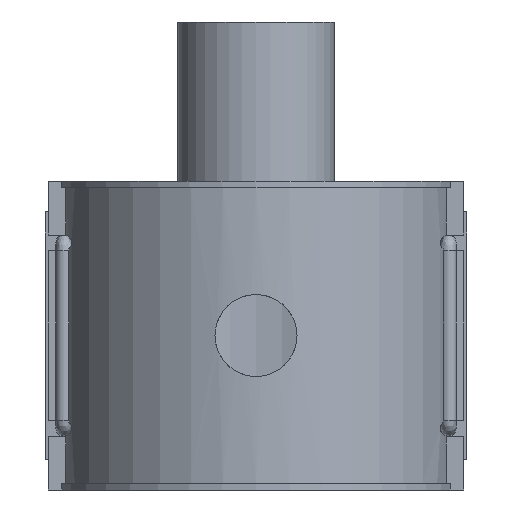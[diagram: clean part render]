
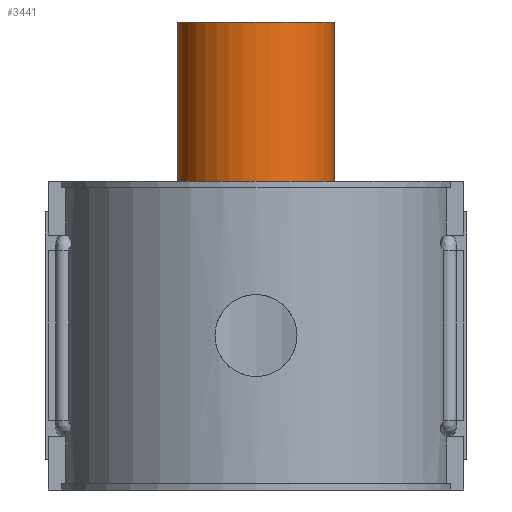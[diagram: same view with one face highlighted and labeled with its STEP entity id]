
A CAD part, front view. The second image highlights one B-rep face of the part: STEP entity #3441.
In plain terms, the highlighted cylindrical face has radius 30.05 mm (diameter 60.1 mm), a full revolution.
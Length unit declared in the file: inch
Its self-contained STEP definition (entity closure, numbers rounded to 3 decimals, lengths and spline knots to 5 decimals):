
#317=CIRCLE('',#3780,1.18307);
#318=CIRCLE('',#3781,1.18307);
#319=CIRCLE('',#3782,1.18307);
#320=CIRCLE('',#3783,1.18307);
#521=FACE_OUTER_BOUND('',#742,.T.);
#742=EDGE_LOOP('',(#3176,#3177,#3178,#3179,#3180,#3181));
#1047=LINE('',#7063,#1348);
#1348=VECTOR('',#4722,1.18307);
#1712=VERTEX_POINT('',#7058);
#1713=VERTEX_POINT('',#7059);
#1714=VERTEX_POINT('',#7062);
#1715=VERTEX_POINT('',#7064);
#2202=EDGE_CURVE('',#1712,#1713,#317,.T.);
#2203=EDGE_CURVE('',#1713,#1712,#318,.T.);
#2204=EDGE_CURVE('',#1713,#1714,#1047,.T.);
#2205=EDGE_CURVE('',#1714,#1715,#319,.T.);
#2206=EDGE_CURVE('',#1715,#1714,#320,.T.);
#3176=ORIENTED_EDGE('',*,*,#2202,.F.);
#3177=ORIENTED_EDGE('',*,*,#2203,.F.);
#3178=ORIENTED_EDGE('',*,*,#2204,.T.);
#3179=ORIENTED_EDGE('',*,*,#2205,.T.);
#3180=ORIENTED_EDGE('',*,*,#2206,.T.);
#3181=ORIENTED_EDGE('',*,*,#2204,.F.);
#3248=CYLINDRICAL_SURFACE('',#3779,1.18307);
#3441=ADVANCED_FACE('',(#521),#3248,.T.);
#3779=AXIS2_PLACEMENT_3D('',#7057,#4716,#4717);
#3780=AXIS2_PLACEMENT_3D('',#7060,#4718,#4719);
#3781=AXIS2_PLACEMENT_3D('',#7061,#4720,#4721);
#3782=AXIS2_PLACEMENT_3D('',#7065,#4723,#4724);
#3783=AXIS2_PLACEMENT_3D('',#7066,#4725,#4726);
#4716=DIRECTION('center_axis',(0.,0.,1.));
#4717=DIRECTION('ref_axis',(0.,-1.,0.));
#4718=DIRECTION('center_axis',(0.,0.,1.));
#4719=DIRECTION('ref_axis',(1.,0.,0.));
#4720=DIRECTION('center_axis',(0.,0.,1.));
#4721=DIRECTION('ref_axis',(1.,0.,0.));
#4722=DIRECTION('',(0.,0.,-1.));
#4723=DIRECTION('center_axis',(0.,0.,1.));
#4724=DIRECTION('ref_axis',(1.,0.,0.));
#4725=DIRECTION('center_axis',(0.,0.,1.));
#4726=DIRECTION('ref_axis',(1.,0.,0.));
#7057=CARTESIAN_POINT('Origin',(0.,4.80606,2.36));
#7058=CARTESIAN_POINT('',(0.,3.62299,4.72));
#7059=CARTESIAN_POINT('',(0.,5.98913,4.72));
#7060=CARTESIAN_POINT('Origin',(0.,4.80606,4.72));
#7061=CARTESIAN_POINT('Origin',(0.,4.80606,4.72));
#7062=CARTESIAN_POINT('',(0.,5.98913,0.));
#7063=CARTESIAN_POINT('',(0.,5.98913,2.36));
#7064=CARTESIAN_POINT('',(0.,3.62299,0.));
#7065=CARTESIAN_POINT('Origin',(0.,4.80606,0.));
#7066=CARTESIAN_POINT('Origin',(0.,4.80606,0.));
